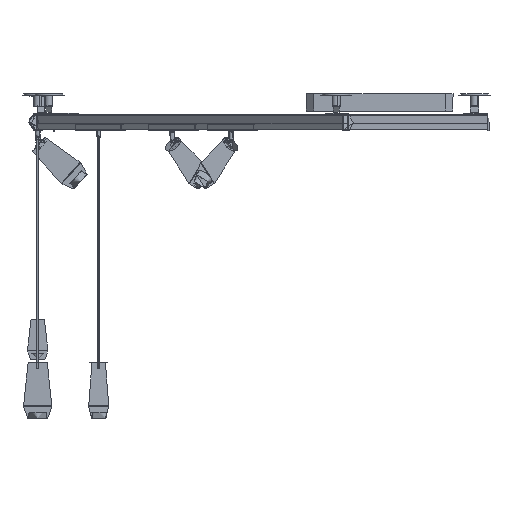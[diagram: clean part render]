
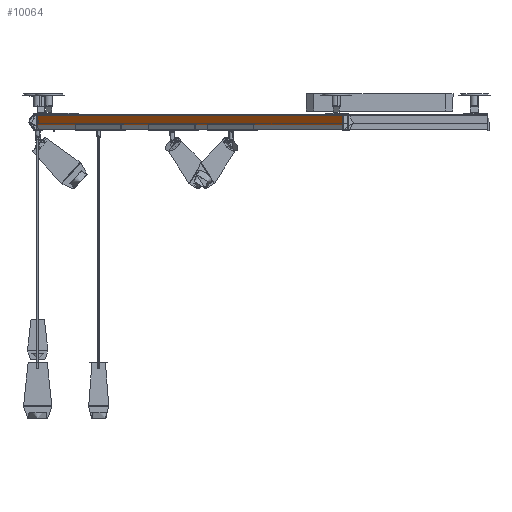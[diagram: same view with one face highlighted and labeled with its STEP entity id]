
A CAD part, front view. The second image highlights one B-rep face of the part: STEP entity #10064.
In plain terms, the highlighted free-form (B-spline) face has degree [2, 1] with [13, 2] control points.
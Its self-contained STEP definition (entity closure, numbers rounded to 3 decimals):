
#10064=ADVANCED_FACE('',(#12374),#41957,.T.);
#12374=FACE_OUTER_BOUND('',#14586,.T.);
#14586=EDGE_LOOP('',(#20071,#20072,#20073,#20074));
#20071=ORIENTED_EDGE('',*,*,#28571,.T.);
#20072=ORIENTED_EDGE('',*,*,#28572,.T.);
#20073=ORIENTED_EDGE('',*,*,#28573,.F.);
#20074=ORIENTED_EDGE('',*,*,#28569,.F.);
#28569=EDGE_CURVE('',#38694,#38695,#33020,.T.);
#28571=EDGE_CURVE('',#38694,#38696,#33022,.T.);
#28572=EDGE_CURVE('',#38696,#38697,#33023,.T.);
#28573=EDGE_CURVE('',#38695,#38697,#33024,.T.);
#33020=(
BOUNDED_CURVE()
B_SPLINE_CURVE(1,(#78577,#78578),.UNSPECIFIED.,.F.,.F.)
B_SPLINE_CURVE_WITH_KNOTS((2,2),(0.,1180.),.UNSPECIFIED.)
CURVE()
GEOMETRIC_REPRESENTATION_ITEM()
RATIONAL_B_SPLINE_CURVE((1.,1.))
REPRESENTATION_ITEM('')
);
#33022=(
BOUNDED_CURVE()
B_SPLINE_CURVE(2,(#78582,#78583,#78584,#78585,#78586,#78587,#78588,#78589,
#78590,#78591,#78592,#78593,#78594),.UNSPECIFIED.,.F.,.F.)
B_SPLINE_CURVE_WITH_KNOTS((3,2,2,2,2,2,3),(-254.385,-253.616,
-252.093,-250.57,-222.483,-194.397,
-194.257),.UNSPECIFIED.)
CURVE()
GEOMETRIC_REPRESENTATION_ITEM()
RATIONAL_B_SPLINE_CURVE((1.,0.718,1.,0.874,1.,0.874,
1.,0.846,1.,0.846,1.,0.973,1.))
REPRESENTATION_ITEM('')
);
#33023=(
BOUNDED_CURVE()
B_SPLINE_CURVE(1,(#78595,#78596),.UNSPECIFIED.,.F.,.F.)
B_SPLINE_CURVE_WITH_KNOTS((2,2),(0.,1180.),.UNSPECIFIED.)
CURVE()
GEOMETRIC_REPRESENTATION_ITEM()
RATIONAL_B_SPLINE_CURVE((1.,1.))
REPRESENTATION_ITEM('')
);
#33024=(
BOUNDED_CURVE()
B_SPLINE_CURVE(2,(#78597,#78598,#78599,#78600,#78601,#78602,#78603,#78604,
#78605,#78606,#78607,#78608,#78609),.UNSPECIFIED.,.F.,.F.)
B_SPLINE_CURVE_WITH_KNOTS((3,2,2,2,2,2,3),(-254.385,-253.616,
-252.093,-250.57,-222.483,-194.397,
-194.257),.UNSPECIFIED.)
CURVE()
GEOMETRIC_REPRESENTATION_ITEM()
RATIONAL_B_SPLINE_CURVE((1.,0.718,1.,0.874,1.,0.874,
1.,0.846,1.,0.846,1.,0.973,1.))
REPRESENTATION_ITEM('')
);
#38694=VERTEX_POINT('',#78382);
#38695=VERTEX_POINT('',#78383);
#38696=VERTEX_POINT('',#78384);
#38697=VERTEX_POINT('',#78385);
#41957=(
BOUNDED_SURFACE()
B_SPLINE_SURFACE(2,1,((#78310,#78311),(#78312,#78313),(#78314,#78315),(#78316,
#78317),(#78318,#78319),(#78320,#78321),(#78322,#78323),(#78324,#78325),
(#78326,#78327),(#78328,#78329),(#78330,#78331),(#78332,#78333),(#78334,
#78335)),.UNSPECIFIED.,.F.,.F.,.F.)
B_SPLINE_SURFACE_WITH_KNOTS((3,2,2,2,2,2,3),(2,2),(-254.385,-253.616,
-252.093,-250.57,-222.483,-194.397,
-194.257),(0.,1180.),.UNSPECIFIED.)
GEOMETRIC_REPRESENTATION_ITEM()
RATIONAL_B_SPLINE_SURFACE(((1.,1.),(0.718,0.718),
(1.,1.),(0.874,0.874),(1.,1.),(0.874,
0.874),(1.,1.),(0.846,0.846),(1.,1.),
(0.846,0.846),(1.,1.),(0.973,0.973),
(1.,1.)))
REPRESENTATION_ITEM('')
SURFACE()
);
#78310=CARTESIAN_POINT('',(2715.632,-2213.678,-45.622));
#78311=CARTESIAN_POINT('',(1881.246,-1379.292,-45.622));
#78312=CARTESIAN_POINT('',(2715.975,-2213.336,-45.622));
#78313=CARTESIAN_POINT('',(1881.588,-1378.95,-45.622));
#78314=CARTESIAN_POINT('',(2715.986,-2213.325,-46.106));
#78315=CARTESIAN_POINT('',(1881.6,-1378.939,-46.106));
#78316=CARTESIAN_POINT('',(2716.005,-2213.306,-46.94));
#78317=CARTESIAN_POINT('',(1881.619,-1378.92,-46.94));
#78318=CARTESIAN_POINT('',(2715.513,-2213.797,-47.402));
#78319=CARTESIAN_POINT('',(1881.127,-1379.411,-47.402));
#78320=CARTESIAN_POINT('',(2715.022,-2214.288,-47.865));
#78321=CARTESIAN_POINT('',(1880.636,-1379.902,-47.865));
#78322=CARTESIAN_POINT('',(2714.485,-2214.825,-47.519));
#78323=CARTESIAN_POINT('',(1880.099,-1380.439,-47.519));
#78324=CARTESIAN_POINT('',(2704.363,-2224.948,-40.991));
#78325=CARTESIAN_POINT('',(1869.977,-1390.562,-40.991));
#78326=CARTESIAN_POINT('',(2704.146,-2225.165,-25.26));
#78327=CARTESIAN_POINT('',(1869.76,-1390.779,-25.26));
#78328=CARTESIAN_POINT('',(2703.929,-2225.382,-9.529));
#78329=CARTESIAN_POINT('',(1869.543,-1390.996,-9.529));
#78330=CARTESIAN_POINT('',(2713.864,-2215.446,-2.447));
#78331=CARTESIAN_POINT('',(1879.478,-1381.06,-2.447));
#78332=CARTESIAN_POINT('',(2713.909,-2215.401,-2.415));
#78333=CARTESIAN_POINT('',(1879.523,-1381.015,-2.415));
#78334=CARTESIAN_POINT('',(2713.959,-2215.351,-2.415));
#78335=CARTESIAN_POINT('',(1879.573,-1380.965,-2.415));
#78382=CARTESIAN_POINT('',(2715.632,-2213.678,-45.622));
#78383=CARTESIAN_POINT('',(1881.246,-1379.292,-45.622));
#78384=CARTESIAN_POINT('',(2713.959,-2215.351,-2.415));
#78385=CARTESIAN_POINT('',(1879.573,-1380.965,-2.415));
#78577=CARTESIAN_POINT('',(2715.632,-2213.678,-45.622));
#78578=CARTESIAN_POINT('',(1881.246,-1379.292,-45.622));
#78582=CARTESIAN_POINT('',(2715.632,-2213.678,-45.622));
#78583=CARTESIAN_POINT('',(2715.975,-2213.336,-45.622));
#78584=CARTESIAN_POINT('',(2715.986,-2213.325,-46.106));
#78585=CARTESIAN_POINT('',(2716.005,-2213.306,-46.94));
#78586=CARTESIAN_POINT('',(2715.513,-2213.797,-47.402));
#78587=CARTESIAN_POINT('',(2715.022,-2214.288,-47.865));
#78588=CARTESIAN_POINT('',(2714.485,-2214.825,-47.519));
#78589=CARTESIAN_POINT('',(2704.363,-2224.948,-40.991));
#78590=CARTESIAN_POINT('',(2704.146,-2225.165,-25.26));
#78591=CARTESIAN_POINT('',(2703.929,-2225.382,-9.529));
#78592=CARTESIAN_POINT('',(2713.864,-2215.446,-2.447));
#78593=CARTESIAN_POINT('',(2713.909,-2215.401,-2.415));
#78594=CARTESIAN_POINT('',(2713.959,-2215.351,-2.415));
#78595=CARTESIAN_POINT('',(2713.959,-2215.351,-2.415));
#78596=CARTESIAN_POINT('',(1879.573,-1380.965,-2.415));
#78597=CARTESIAN_POINT('',(1881.246,-1379.292,-45.622));
#78598=CARTESIAN_POINT('',(1881.588,-1378.95,-45.622));
#78599=CARTESIAN_POINT('',(1881.6,-1378.939,-46.106));
#78600=CARTESIAN_POINT('',(1881.619,-1378.92,-46.94));
#78601=CARTESIAN_POINT('',(1881.127,-1379.411,-47.402));
#78602=CARTESIAN_POINT('',(1880.636,-1379.902,-47.865));
#78603=CARTESIAN_POINT('',(1880.099,-1380.439,-47.519));
#78604=CARTESIAN_POINT('',(1869.977,-1390.562,-40.991));
#78605=CARTESIAN_POINT('',(1869.76,-1390.779,-25.26));
#78606=CARTESIAN_POINT('',(1869.543,-1390.996,-9.529));
#78607=CARTESIAN_POINT('',(1879.478,-1381.06,-2.447));
#78608=CARTESIAN_POINT('',(1879.523,-1381.015,-2.415));
#78609=CARTESIAN_POINT('',(1879.573,-1380.965,-2.415));
